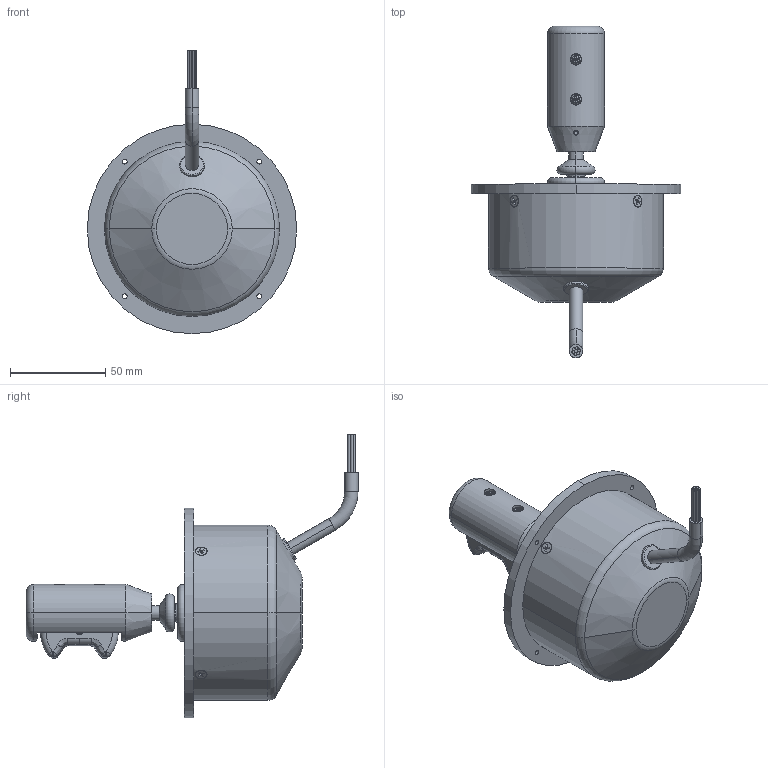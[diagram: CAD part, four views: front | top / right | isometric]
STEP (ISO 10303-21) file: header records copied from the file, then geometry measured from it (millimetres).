
FILE_DESCRIPTION (( 'STEP AP214' ), '1' );
FILE_NAME ('77955703010 100JBM-ZU-30R3G.STEP', '2019-06-07T07:07:09', ( '' ), ( '' ), 'SwSTEP 2.0', 'SolidWorks 2018', '' );
FILE_SCHEMA (( 'AUTOMOTIVE_DESIGN' ));
Length unit declared in the file: millimetre
Products named in the file (1): 77955703010 100JBM-ZU-30R3G
Bounding box: 110 x 174.4 x 148.82 mm (x, y, z)
Volume: 146387.1 mm3; surface area: 105179.5 mm2
Topology: 1 solids, 32 shells, 1635 faces, 4147 edges, 2642 vertices
Faces by surface type: plane 630, cylinder 590, cone 289, torus 82, bspline 26, sphere 18
Entity records: 53311 total; most frequent: CARTESIAN_POINT 12568, DIRECTION 8743, ORIENTED_EDGE 8256, EDGE_CURVE 4128, AXIS2_PLACEMENT_3D 3334, VERTEX_POINT 2639, VECTOR 2075, LINE 2075
